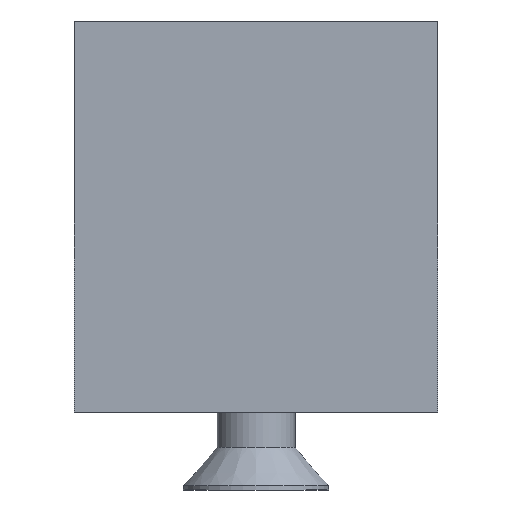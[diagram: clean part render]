
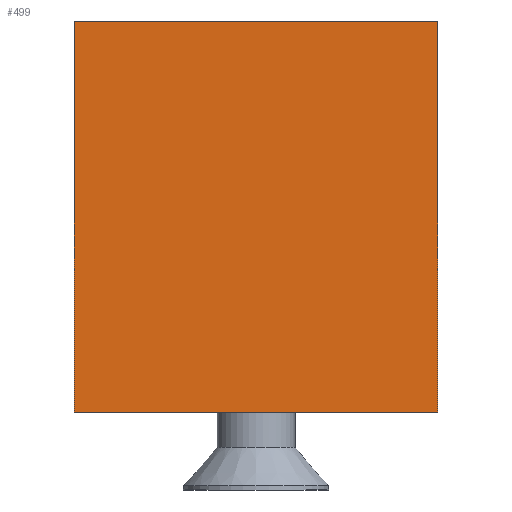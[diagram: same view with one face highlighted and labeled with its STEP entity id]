
A CAD part, left-side view. The second image highlights one B-rep face of the part: STEP entity #499.
In plain terms, the highlighted planar face has unit normal (-1, 0, 0).
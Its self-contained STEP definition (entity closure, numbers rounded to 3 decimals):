
#73=FACE_OUTER_BOUND('',#101,.T.);
#101=EDGE_LOOP('',(#435,#436,#437,#438));
#157=LINE('',#822,#211);
#158=LINE('',#825,#212);
#159=LINE('',#827,#213);
#160=LINE('',#828,#214);
#211=VECTOR('',#679,10.);
#212=VECTOR('',#682,10.);
#213=VECTOR('',#683,10.);
#214=VECTOR('',#684,10.);
#256=VERTEX_POINT('',#818);
#257=VERTEX_POINT('',#820);
#258=VERTEX_POINT('',#824);
#259=VERTEX_POINT('',#826);
#319=EDGE_CURVE('',#256,#257,#157,.T.);
#320=EDGE_CURVE('',#258,#256,#158,.T.);
#321=EDGE_CURVE('',#259,#257,#159,.T.);
#322=EDGE_CURVE('',#258,#259,#160,.T.);
#435=ORIENTED_EDGE('',*,*,#320,.T.);
#436=ORIENTED_EDGE('',*,*,#319,.T.);
#437=ORIENTED_EDGE('',*,*,#321,.F.);
#438=ORIENTED_EDGE('',*,*,#322,.F.);
#472=PLANE('',#553);
#499=ADVANCED_FACE('',(#73),#472,.T.);
#553=AXIS2_PLACEMENT_3D('',#823,#680,#681);
#679=DIRECTION('',(0.,0.,-1.));
#680=DIRECTION('center_axis',(-1.,0.,0.));
#681=DIRECTION('ref_axis',(0.,1.,0.));
#682=DIRECTION('',(0.,1.,0.));
#683=DIRECTION('',(0.,1.,0.));
#684=DIRECTION('',(0.,0.,-1.));
#818=CARTESIAN_POINT('',(-22.,7.,0.));
#820=CARTESIAN_POINT('',(-22.,7.,-15.));
#822=CARTESIAN_POINT('',(-22.,7.,0.));
#823=CARTESIAN_POINT('Origin',(-22.,-7.,0.));
#824=CARTESIAN_POINT('',(-22.,-7.,0.));
#825=CARTESIAN_POINT('',(-22.,-7.,0.));
#826=CARTESIAN_POINT('',(-22.,-7.,-15.));
#827=CARTESIAN_POINT('',(-22.,-7.,-15.));
#828=CARTESIAN_POINT('',(-22.,-7.,0.));
